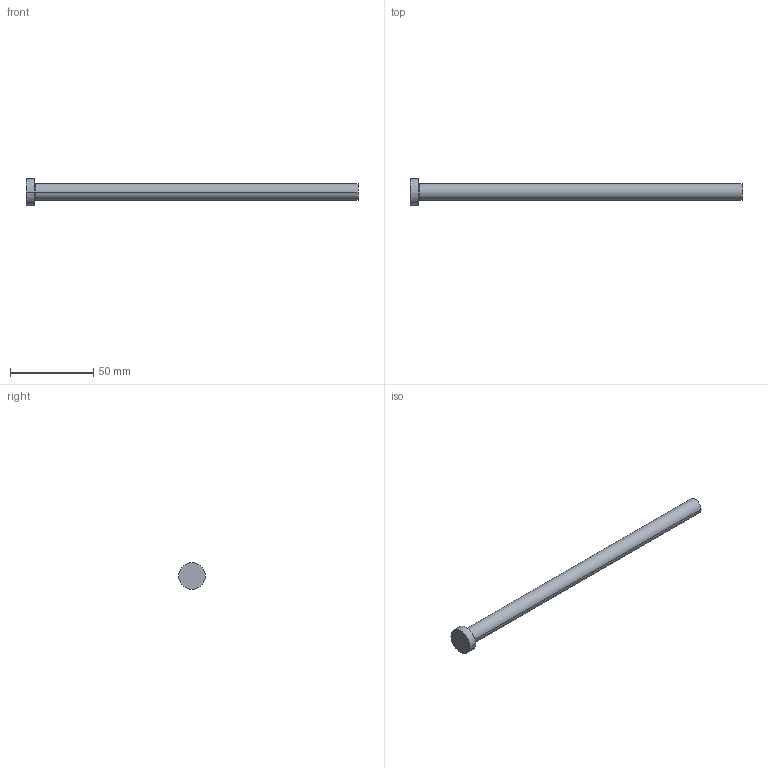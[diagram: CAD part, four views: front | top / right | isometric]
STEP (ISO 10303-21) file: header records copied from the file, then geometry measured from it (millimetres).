
FILE_DESCRIPTION (( 'STEP AP214' ), '1' );
FILE_NAME ('A-10x200.STEP', '2020-05-29T16:02:37', ( 'August' ), ( '' ), 'SwSTEP 2.0', 'SolidWorks 2018', '' );
FILE_SCHEMA (( 'AUTOMOTIVE_DESIGN' ));
Length unit declared in the file: millimetre
Products named in the file (1): A-10x200
Bounding box: 200 x 16 x 16 mm (x, y, z)
Volume: 16322.3 mm3; surface area: 6772.9 mm2
Topology: 1 solids, 1 shells, 9 faces, 16 edges, 10 vertices
Faces by surface type: cylinder 4, plane 3, torus 2
Entity records: 260 total; most frequent: DIRECTION 48, CARTESIAN_POINT 36, ORIENTED_EDGE 32, AXIS2_PLACEMENT_3D 22, EDGE_CURVE 16, CIRCLE 12, EDGE_LOOP 10, VERTEX_POINT 10
